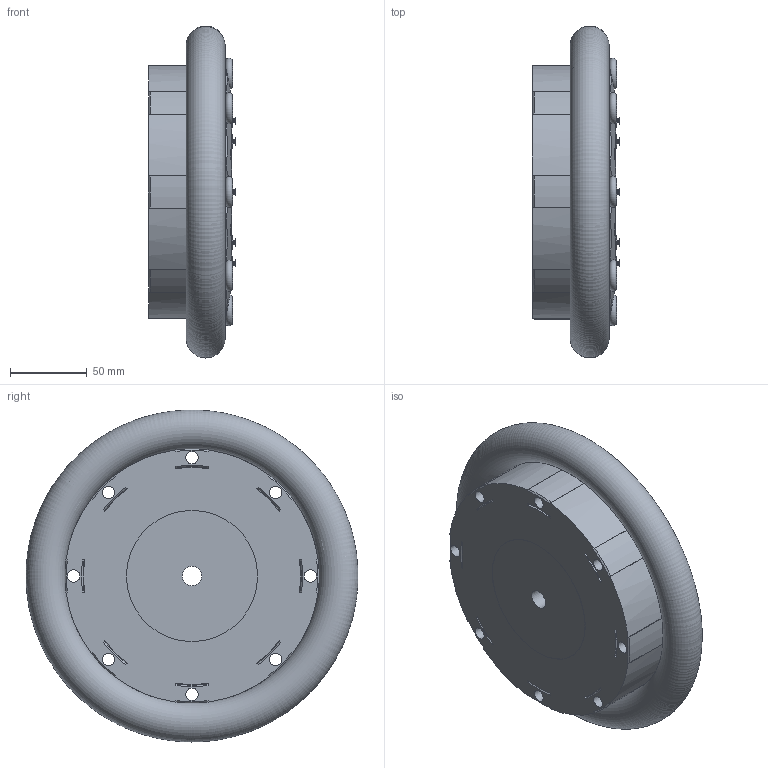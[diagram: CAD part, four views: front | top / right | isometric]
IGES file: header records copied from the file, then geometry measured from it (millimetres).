
Start section: C
Global section: file name: TILTON 6554HSG-P.igs; native system: By Siemens PLM Incorporated; preprocessor: XPlus GENERIC/IGES 16.0.42; author: Author; organization: Title; date: 20150129.153309; units: inch
Bounding box: 57.01 x 216.71 x 216.73 mm (x, y, z)
Surface area: 524824.1 mm2 (no closed solid volume)
Topology: 0 solids, 9 shells, 825 faces, 2402 edges, 1592 vertices
Faces by surface type: cylinder 403, plane 355, cone 34, torus 33
Full cylindrical faces by diameter (mm): 0.508 x8, 4.902 x8, 8.077 x8, 9.169 x8, 12.7 x1, 71.095 x1, 85.674 x1, 87.376 x1, 142.697 x1
